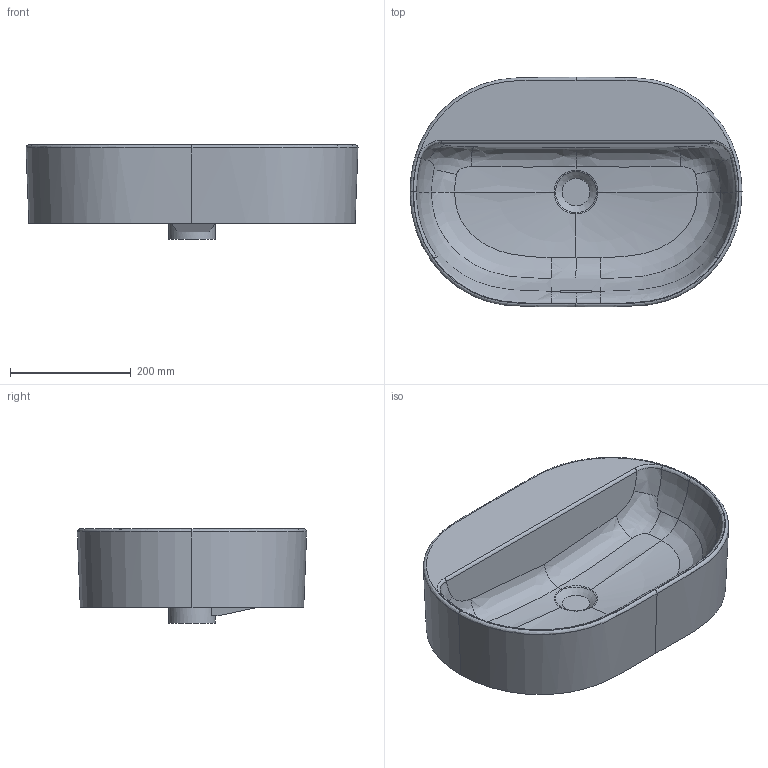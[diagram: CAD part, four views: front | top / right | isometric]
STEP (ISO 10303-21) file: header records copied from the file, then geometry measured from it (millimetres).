
FILE_DESCRIPTION(/* description */ (''),/* implementation_level */ '2;1');
FILE_NAME(/* name */ '12945BIM.stp',/* time_stamp */ '2023-06-21T16:57:26+02:00',/* author */ (''),/* organization */ (''),/* preprocessor_version */ 'ST-DEVELOPER v16.7',/* originating_system */ 'SIEMENS PLM Software NX 1946',/* authorisation */ '');
FILE_SCHEMA (('AUTOMOTIVE_DESIGN { 1 0 10303 214 3 1 1 1 }'));
Length unit declared in the file: millimetre
Products named in the file (1): pors32A0A7D9lhqz
Bounding box: 549.86 x 379.87 x 156 mm (x, y, z)
Volume: 11159323.9 mm3; surface area: 662085.2 mm2
Topology: 1 solids, 1 shells, 73 faces, 177 edges, 111 vertices
Faces by surface type: bspline 45, plane 16, extrusion 6, cylinder 5, cone 1
Full cylindrical faces by diameter (mm): 12 x2, 77.845 x1
Entity records: 9210 total; most frequent: CARTESIAN_POINT 7871, ORIENTED_EDGE 342, EDGE_CURVE 171, DIRECTION 122, B_SPLINE_CURVE_WITH_KNOTS 113, VERTEX_POINT 109, EDGE_LOOP 82, ADVANCED_FACE 73
